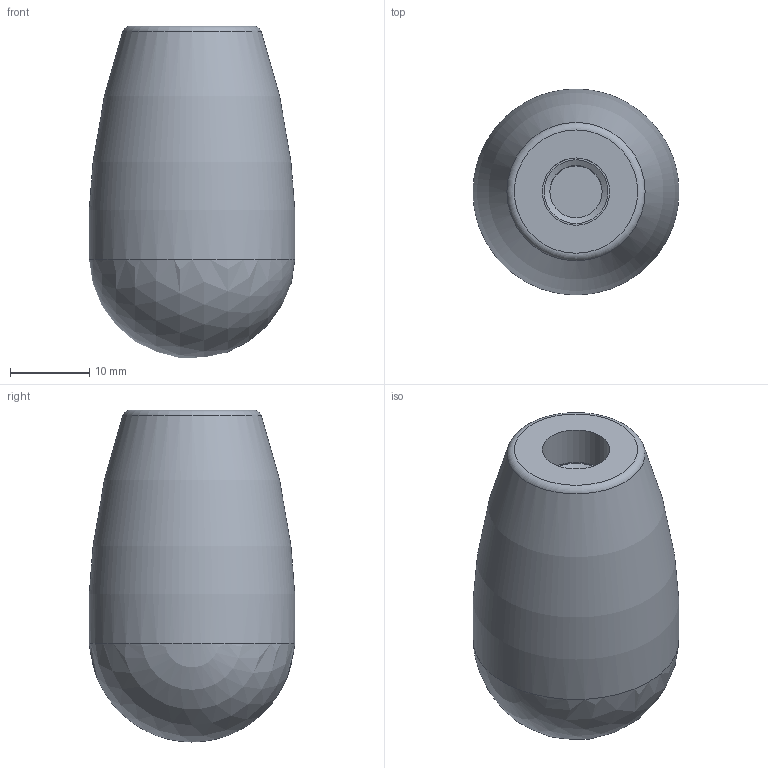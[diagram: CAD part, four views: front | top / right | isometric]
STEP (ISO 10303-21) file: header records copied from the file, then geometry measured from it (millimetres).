
FILE_DESCRIPTION (( 'STEP AP214' ), '1' );
FILE_NAME ('719.2-26-M8-GB.step', '2019-04-26T07:58:55', ( 'user' ), ( '' ), 'SwSTEP 2.0', 'SolidWorks 2019', '' );
FILE_SCHEMA (( 'AUTOMOTIVE_DESIGN' ));
Length unit declared in the file: millimetre
Products named in the file (1): 719.2-26-M8-GB
Bounding box: 25.98 x 25.98 x 41.91 mm (x, y, z)
Volume: 15840.8 mm3; surface area: 4184.1 mm2
Topology: 1 solids, 1 shells, 9 faces, 13 edges, 8 vertices
Faces by surface type: plane 3, torus 2, cylinder 2, sphere 1, cone 1
Full cylindrical faces by diameter (mm): 6.6 x1, 8.5 x1
Entity records: 219 total; most frequent: DIRECTION 36, CARTESIAN_POINT 26, AXIS2_PLACEMENT_3D 18, ORIENTED_EDGE 16, EDGE_LOOP 16, FACE_OUTER_BOUND 13, ADVANCED_FACE 9, CIRCLE 8
